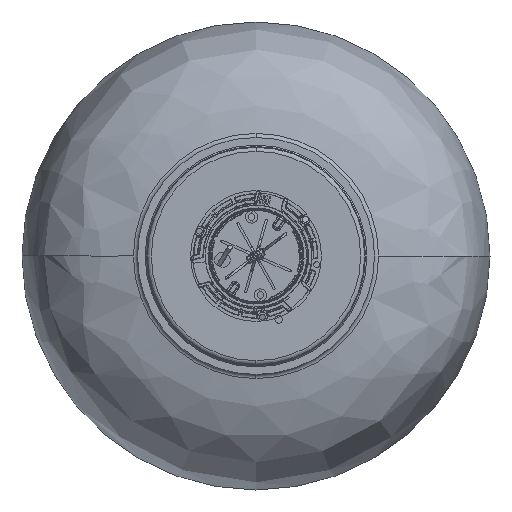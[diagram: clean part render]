
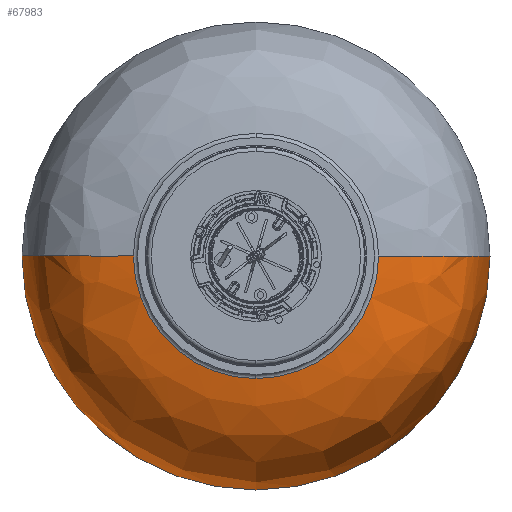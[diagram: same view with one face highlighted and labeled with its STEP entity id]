
A CAD part, front view. The second image highlights one B-rep face of the part: STEP entity #67983.
In plain terms, the highlighted free-form (B-spline) face has degree [3, 3] with [7, 4] control points.
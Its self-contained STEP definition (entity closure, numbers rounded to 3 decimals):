
#953 = CARTESIAN_POINT ( 'NONE',  ( 0.192, -211.545, -79.649 ) ) ;
#1769 = DIRECTION ( 'NONE',  ( 0., 1., 0. ) ) ;
#3155 = CARTESIAN_POINT ( 'NONE',  ( -135.218, -191.019, -0.055 ) ) ;
#3354 =( BOUNDED_SURFACE ( )  B_SPLINE_SURFACE ( 3, 3, ( 
 ( #4993, #15625, #68392, #11429 ),
 ( #9919, #22818, #63398, #22058 ),
 ( #34566, #10288, #39849, #68788 ),
 ( #73727, #45972, #38732, #62274 ),
 ( #16390, #39469, #51635, #61901 ),
 ( #10679, #74448, #22426, #6469 ),
 ( #69890, #34948, #46362, #40975 ) ),
 .UNSPECIFIED., .F., .F., .F. ) 
 B_SPLINE_SURFACE_WITH_KNOTS ( ( 4, 1, 1, 1, 4 ),
 ( 4, 4 ),
 ( 0.124, 0.177, 0.307, 0.407, 0.579 ),
 ( 0., 1. ),
 .UNSPECIFIED. ) 
 GEOMETRIC_REPRESENTATION_ITEM ( )  RATIONAL_B_SPLINE_SURFACE ( (
 ( 1., 0.333, 0.333, 1.),
 ( 1., 0.333, 0.333, 1.),
 ( 1., 0.333, 0.333, 1.),
 ( 1., 0.333, 0.333, 1.),
 ( 1., 0.333, 0.333, 1.),
 ( 1., 0.333, 0.333, 1.),
 ( 1., 0.333, 0.333, 1.) ) ) 
 REPRESENTATION_ITEM ( '' )  SURFACE ( )  );
#4246 = FACE_OUTER_BOUND ( 'NONE', #11858, .T. ) ;
#4993 = CARTESIAN_POINT ( 'NONE',  ( -79.401, -211.545, -0.055 ) ) ;
#5962 = ORIENTED_EDGE ( 'NONE', *, *, #39106, .T. ) ;
#6469 = CARTESIAN_POINT ( 'NONE',  ( 152.222, -114.475, -0.055 ) ) ;
#8418 = CARTESIAN_POINT ( 'NONE',  ( 85.755, -210.729, -0.055 ) ) ;
#8462 = B_SPLINE_CURVE_WITH_KNOTS ( 'NONE', 3,
 ( #60072, #8418, #13774, #14876, #37271, #42945, #42569 ),
 .UNSPECIFIED., .F., .F.,
 ( 4, 1, 1, 1, 4 ),
 ( 0.124, 0.177, 0.307, 0.407, 0.579 ),
 .UNSPECIFIED. ) ;
#9169 = CIRCLE ( 'NONE', #68587, 79.594 ) ;
#9495 = CARTESIAN_POINT ( 'NONE',  ( 79.786, -211.545, -0.055 ) ) ;
#9919 = CARTESIAN_POINT ( 'NONE',  ( -85.37, -210.729, -0.055 ) ) ;
#10288 = CARTESIAN_POINT ( 'NONE',  ( -106.552, -206.66, -213.544 ) ) ;
#10679 = CARTESIAN_POINT ( 'NONE',  ( -151.838, -114.475, -0.055 ) ) ;
#11429 = CARTESIAN_POINT ( 'NONE',  ( 79.786, -211.545, -0.055 ) ) ;
#11858 = EDGE_LOOP ( 'NONE', ( #49800, #64383, #30666, #44218, #5962 ) ) ;
#13774 = CARTESIAN_POINT ( 'NONE',  ( 106.937, -206.66, -0.055 ) ) ;
#14831 = CIRCLE ( 'NONE', #30575, 152. ) ;
#14876 = CARTESIAN_POINT ( 'NONE',  ( 135.603, -191.019, -0.055 ) ) ;
#15380 = EDGE_CURVE ( 'NONE', #54563, #58120, #67757, .T. ) ;
#15625 = CARTESIAN_POINT ( 'NONE',  ( -79.401, -211.545, -159.242 ) ) ;
#16390 = CARTESIAN_POINT ( 'NONE',  ( -150.997, -153.252, -0.055 ) ) ;
#18619 = DIRECTION ( 'NONE',  ( 0., 0., -1. ) ) ;
#20611 = CARTESIAN_POINT ( 'NONE',  ( -79.401, -211.545, -0.055 ) ) ;
#21327 = CARTESIAN_POINT ( 'NONE',  ( -151.838, -114.475, -0.055 ) ) ;
#22058 = CARTESIAN_POINT ( 'NONE',  ( 85.755, -210.729, -0.055 ) ) ;
#22426 = CARTESIAN_POINT ( 'NONE',  ( 152.222, -114.475, -304.115 ) ) ;
#22818 = CARTESIAN_POINT ( 'NONE',  ( -85.37, -210.729, -171.18 ) ) ;
#27620 = DIRECTION ( 'NONE',  ( 0., 1., 0. ) ) ;
#28357 = CARTESIAN_POINT ( 'NONE',  ( 0.192, -211.545, -0.055 ) ) ;
#30575 = AXIS2_PLACEMENT_3D ( 'NONE', #53121, #70620, #18619 ) ;
#30666 = ORIENTED_EDGE ( 'NONE', *, *, #61689, .T. ) ;
#34566 = CARTESIAN_POINT ( 'NONE',  ( -106.552, -206.66, -0.055 ) ) ;
#34948 = CARTESIAN_POINT ( 'NONE',  ( -151.808, -102.394, -304.055 ) ) ;
#36288 = AXIS2_PLACEMENT_3D ( 'NONE', #53777, #1769, #59844 ) ;
#36779 = VERTEX_POINT ( 'NONE', #9495 ) ;
#37271 = CARTESIAN_POINT ( 'NONE',  ( 151.382, -153.252, -0.055 ) ) ;
#38732 = CARTESIAN_POINT ( 'NONE',  ( 135.603, -191.019, -270.877 ) ) ;
#39106 = EDGE_CURVE ( 'NONE', #36779, #54563, #9169, .T. ) ;
#39469 = CARTESIAN_POINT ( 'NONE',  ( -150.997, -153.252, -302.434 ) ) ;
#39825 = EDGE_CURVE ( 'NONE', #36779, #54553, #8462, .T. ) ;
#39849 = CARTESIAN_POINT ( 'NONE',  ( 106.937, -206.66, -213.544 ) ) ;
#40975 = CARTESIAN_POINT ( 'NONE',  ( 152.192, -102.394, -0.055 ) ) ;
#42569 = CARTESIAN_POINT ( 'NONE',  ( 152.192, -102.394, -0.055 ) ) ;
#42945 = CARTESIAN_POINT ( 'NONE',  ( 152.222, -114.475, -0.055 ) ) ;
#43719 = CARTESIAN_POINT ( 'NONE',  ( -151.808, -102.394, -0.055 ) ) ;
#44218 = ORIENTED_EDGE ( 'NONE', *, *, #39825, .F. ) ;
#45265 = CARTESIAN_POINT ( 'NONE',  ( -79.401, -211.545, -0.055 ) ) ;
#45972 = CARTESIAN_POINT ( 'NONE',  ( -135.218, -191.019, -270.877 ) ) ;
#46362 = CARTESIAN_POINT ( 'NONE',  ( 152.192, -102.394, -304.055 ) ) ;
#49800 = ORIENTED_EDGE ( 'NONE', *, *, #15380, .T. ) ;
#51635 = CARTESIAN_POINT ( 'NONE',  ( 151.382, -153.252, -302.434 ) ) ;
#52923 = CARTESIAN_POINT ( 'NONE',  ( 152.192, -102.394, -0.055 ) ) ;
#53121 = CARTESIAN_POINT ( 'NONE',  ( 0.192, -102.394, -0.055 ) ) ;
#53777 = CARTESIAN_POINT ( 'NONE',  ( 0.192, -211.545, -0.055 ) ) ;
#54553 = VERTEX_POINT ( 'NONE', #52923 ) ;
#54563 = VERTEX_POINT ( 'NONE', #953 ) ;
#55170 = CARTESIAN_POINT ( 'NONE',  ( -106.552, -206.66, -0.055 ) ) ;
#55909 = CARTESIAN_POINT ( 'NONE',  ( -150.997, -153.252, -0.055 ) ) ;
#58120 = VERTEX_POINT ( 'NONE', #45265 ) ;
#59844 = DIRECTION ( 'NONE',  ( 0., 0., -1. ) ) ;
#60072 = CARTESIAN_POINT ( 'NONE',  ( 79.786, -211.545, -0.055 ) ) ;
#61689 = EDGE_CURVE ( 'NONE', #63485, #54553, #14831, .T. ) ;
#61901 = CARTESIAN_POINT ( 'NONE',  ( 151.382, -153.252, -0.055 ) ) ;
#62274 = CARTESIAN_POINT ( 'NONE',  ( 135.603, -191.019, -0.055 ) ) ;
#63398 = CARTESIAN_POINT ( 'NONE',  ( 85.755, -210.729, -171.18 ) ) ;
#63485 = VERTEX_POINT ( 'NONE', #65892 ) ;
#64383 = ORIENTED_EDGE ( 'NONE', *, *, #68641, .T. ) ;
#64510 = B_SPLINE_CURVE_WITH_KNOTS ( 'NONE', 3,
 ( #20611, #67652, #55170, #3155, #55909, #21327, #43719 ),
 .UNSPECIFIED., .F., .F.,
 ( 4, 1, 1, 1, 4 ),
 ( 0.124, 0.177, 0.307, 0.407, 0.579 ),
 .UNSPECIFIED. ) ;
#65892 = CARTESIAN_POINT ( 'NONE',  ( -151.808, -102.394, -0.055 ) ) ;
#67652 = CARTESIAN_POINT ( 'NONE',  ( -85.37, -210.729, -0.055 ) ) ;
#67757 = CIRCLE ( 'NONE', #36288, 79.594 ) ;
#67983 = ADVANCED_FACE ( 'NONE', ( #4246 ), #3354, .T. ) ;
#68392 = CARTESIAN_POINT ( 'NONE',  ( 79.786, -211.545, -159.242 ) ) ;
#68587 = AXIS2_PLACEMENT_3D ( 'NONE', #28357, #27620, #69399 ) ;
#68641 = EDGE_CURVE ( 'NONE', #58120, #63485, #64510, .T. ) ;
#68788 = CARTESIAN_POINT ( 'NONE',  ( 106.937, -206.66, -0.055 ) ) ;
#69399 = DIRECTION ( 'NONE',  ( 0., 0., -1. ) ) ;
#69890 = CARTESIAN_POINT ( 'NONE',  ( -151.808, -102.394, -0.055 ) ) ;
#70620 = DIRECTION ( 'NONE',  ( 0., -1., 0. ) ) ;
#73727 = CARTESIAN_POINT ( 'NONE',  ( -135.218, -191.019, -0.055 ) ) ;
#74448 = CARTESIAN_POINT ( 'NONE',  ( -151.838, -114.475, -304.115 ) ) ;
